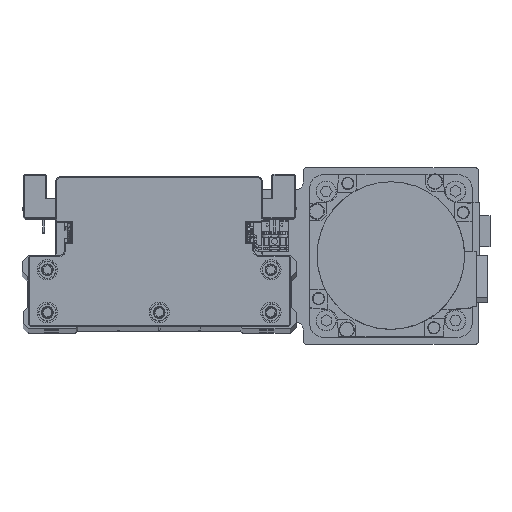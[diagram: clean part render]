
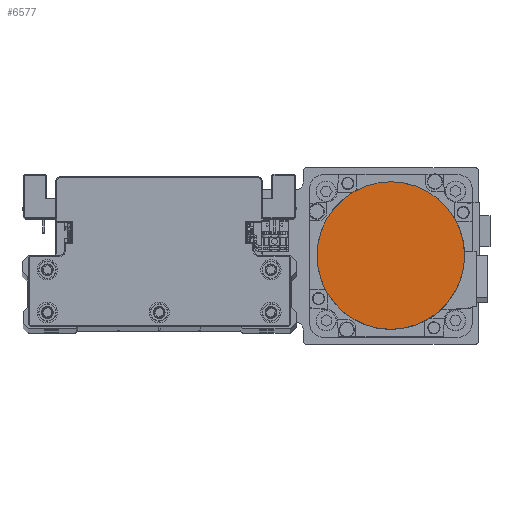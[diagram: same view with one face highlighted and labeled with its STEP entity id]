
A CAD part, top view. The second image highlights one B-rep face of the part: STEP entity #6577.
In plain terms, the highlighted planar face has unit normal (0, 0, 1) as drawn and (0, 0, -1) by its records, which use the part's own axes.
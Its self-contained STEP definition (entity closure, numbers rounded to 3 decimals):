
#865 = AXIS2_PLACEMENT_3D ( 'NONE', #7183, #19723, #32257 ) ;
#1551 = ORIENTED_EDGE ( 'NONE', *, *, #12439, .F. ) ;
#2355 = PLANE ( 'NONE',  #17533 ) ;
#3360 = ORIENTED_EDGE ( 'NONE', *, *, #9607, .F. ) ;
#4277 = CARTESIAN_POINT ( 'NONE',  ( 0., -36.3, -122.2 ) ) ;
#6577 = ADVANCED_FACE ( 'NONE', ( #30511 ), #2355, .F. ) ;
#6900 = VERTEX_POINT ( 'NONE', #26376 ) ;
#7183 = CARTESIAN_POINT ( 'NONE',  ( 0., 0., -122.2 ) ) ;
#9607 = EDGE_CURVE ( 'NONE', #24118, #6900, #36432, .T. ) ;
#12339 = DIRECTION ( 'NONE',  ( 0., -1., 0. ) ) ;
#12439 = EDGE_CURVE ( 'NONE', #6900, #24118, #18602, .T. ) ;
#14905 = CARTESIAN_POINT ( 'NONE',  ( 0., 0., -122.2 ) ) ;
#17533 = AXIS2_PLACEMENT_3D ( 'NONE', #14905, #27421, #39952 ) ;
#18602 = CIRCLE ( 'NONE', #865, 36.3 ) ;
#18735 = AXIS2_PLACEMENT_3D ( 'NONE', #27955, #40479, #12339 ) ;
#19432 = EDGE_LOOP ( 'NONE', ( #1551, #3360 ) ) ;
#19723 = DIRECTION ( 'NONE',  ( 0., 0., 1. ) ) ;
#24118 = VERTEX_POINT ( 'NONE', #4277 ) ;
#26376 = CARTESIAN_POINT ( 'NONE',  ( 0., 36.3, -122.2 ) ) ;
#27421 = DIRECTION ( 'NONE',  ( 0., 0., 1. ) ) ;
#27955 = CARTESIAN_POINT ( 'NONE',  ( 0., 0., -122.2 ) ) ;
#30511 = FACE_OUTER_BOUND ( 'NONE', #19432, .T. ) ;
#32257 = DIRECTION ( 'NONE',  ( 0., 1., 0. ) ) ;
#36432 = CIRCLE ( 'NONE', #18735, 36.3 ) ;
#39952 = DIRECTION ( 'NONE',  ( 1., 0., 0. ) ) ;
#40479 = DIRECTION ( 'NONE',  ( 0., 0., 1. ) ) ;
